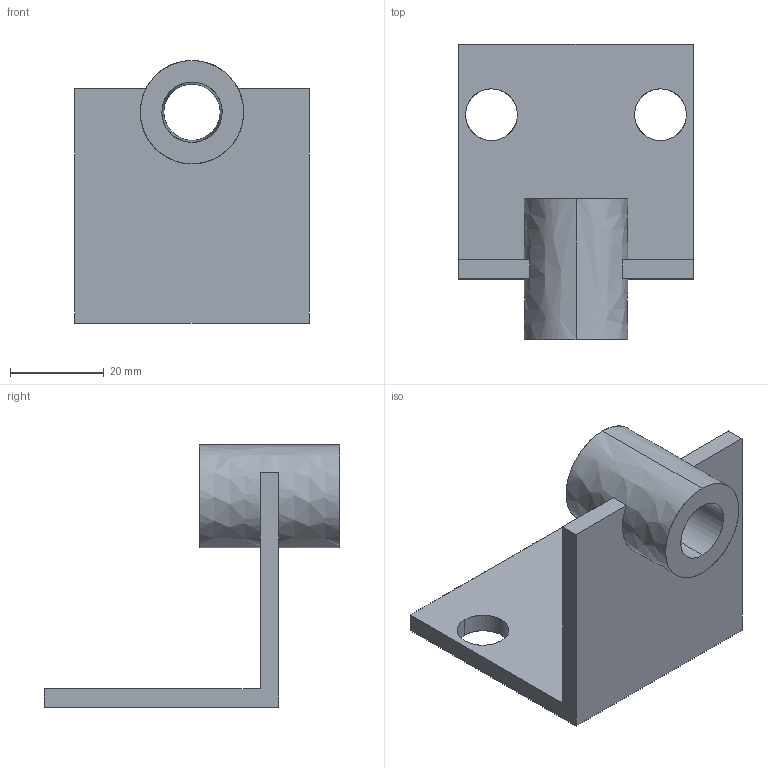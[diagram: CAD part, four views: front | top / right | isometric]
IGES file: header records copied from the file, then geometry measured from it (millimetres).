
Global section: file name: E:\UnigraphicsGraphicData\MISUMI_PRESS-PARTS\IGES\3d_tahk-a-3_01842_r00.igs; native system: NX V5.0; preprocessor: UGS NX IGES V5.0; author: MISUMI; date: 20110105.163347; units: millimetre
Bounding box: 50 x 63 x 56 mm (x, y, z)
Surface area: 13552 mm2 (no closed solid volume)
Topology: 0 solids, 0 shells, 25 faces, 194 edges, 194 vertices
Faces by surface type: bspline 25
